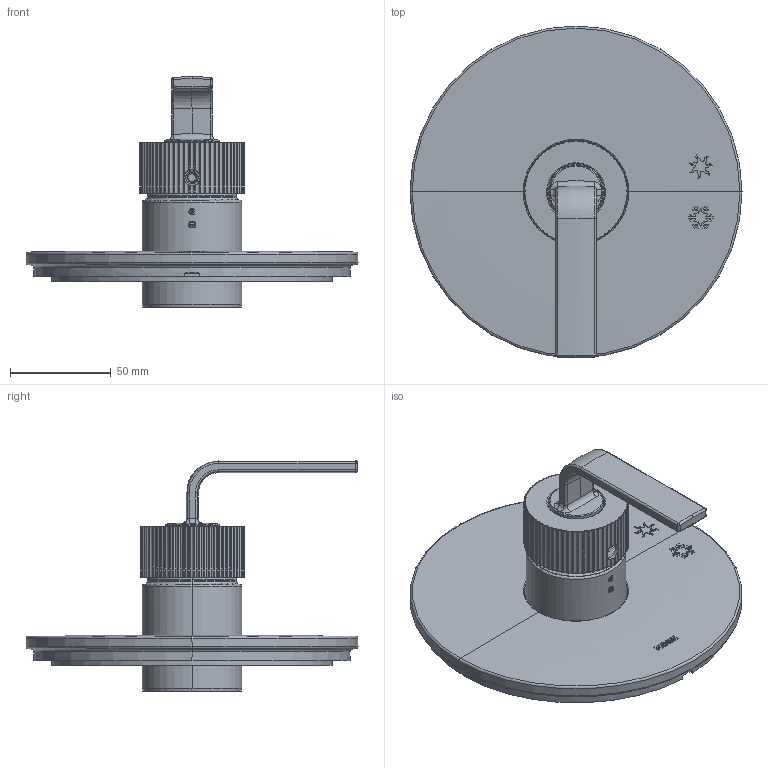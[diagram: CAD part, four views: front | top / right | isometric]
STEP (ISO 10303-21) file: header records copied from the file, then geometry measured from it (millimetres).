
FILE_DESCRIPTION (( 'STEP AP203' ), '1' );
FILE_NAME ('sku_uts22581series_stp.STEP', '2026-04-14T08:55:37', ( '' ), ( '' ), 'SwSTEP 2.0', 'SolidWorks 2025', '' );
FILE_SCHEMA (( 'CONFIG_CONTROL_DESIGN' ));
Length unit declared in the file: inch
Products named in the file (11): 197632_1_197632_1_BREP_Part50; 218847SERIES_218847SERIES_Assem9; 197655_197655_BREP_Part49; 206094_Unexplode_Assem12; 218844_218844SERIES_Part40; 206093_206093_Part51; sku_uts22581series_stp; 216055_HANDLE NUT_Part41; 218845SERIES_218845SERIES_Part39; 196901series_196901SERIES_Part81; 201376series_201376SERIES_Part80
Assembly tree (10 placements, depth 3):
  sku_uts22581series_stp
    218847SERIES_218847SERIES_Assem9
      218845SERIES_218845SERIES_Part39
      218844_218844SERIES_Part40
      216055_HANDLE NUT_Part41
    206094_Unexplode_Assem12
      197655_197655_BREP_Part49
      197632_1_197632_1_BREP_Part50
      206093_206093_Part51
    201376series_201376SERIES_Part80
    196901series_196901SERIES_Part81
Bounding box: 165.06 x 165.06 x 114.67 mm (x, y, z)
Volume: 147519.8 mm3; surface area: 144291.9 mm2
Topology: 8 solids, 8 shells, 1425 faces, 3703 edges, 2304 vertices
Faces by surface type: cylinder 506, bspline 304, torus 285, plane 262, cone 60, sphere 8
Entity records: 96218 total; most frequent: CARTESIAN_POINT 62642, ORIENTED_EDGE 7378, DIRECTION 6255, EDGE_CURVE 3689, AXIS2_PLACEMENT_3D 2631, VERTEX_POINT 2304, CIRCLE 1495, EDGE_LOOP 1471
